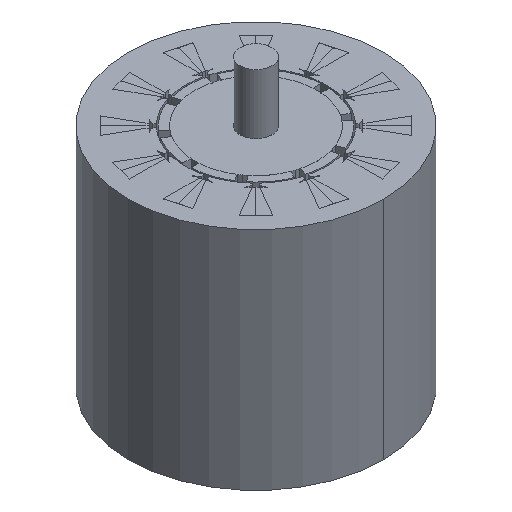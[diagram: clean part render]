
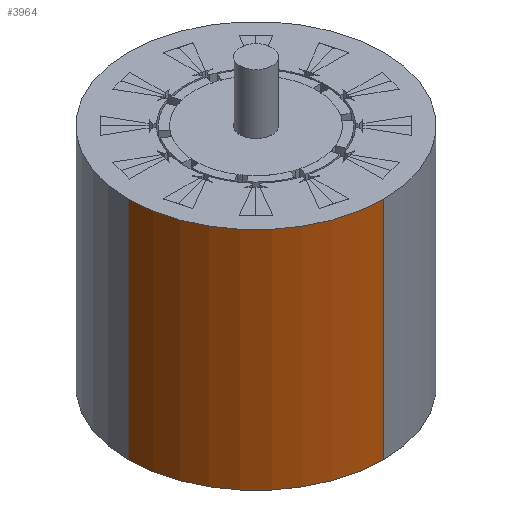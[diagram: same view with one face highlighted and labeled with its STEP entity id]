
A CAD part, isometric view. The second image highlights one B-rep face of the part: STEP entity #3964.
In plain terms, the highlighted cylindrical face has radius 48 mm (diameter 96 mm), a partial arc.
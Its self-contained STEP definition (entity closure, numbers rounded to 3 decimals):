
#3904 = VERTEX_POINT('',#3905);
#3905 = CARTESIAN_POINT('',(0.,-48.,85.));
#3912 = EDGE_CURVE('',#3913,#3904,#3915,.T.);
#3913 = VERTEX_POINT('',#3914);
#3914 = CARTESIAN_POINT('',(0.,-48.,0.));
#3915 = LINE('',#3916,#3917);
#3916 = CARTESIAN_POINT('',(0.,-48.,0.));
#3917 = VECTOR('',#3918,1.);
#3918 = DIRECTION('',(0.,0.,1.));
#3964 = ADVANCED_FACE('',(#3965),#3992,.T.);
#3965 = FACE_BOUND('',#3966,.T.);
#3966 = EDGE_LOOP('',(#3967,#3968,#3977,#3985));
#3967 = ORIENTED_EDGE('',*,*,#3912,.T.);
#3968 = ORIENTED_EDGE('',*,*,#3969,.T.);
#3969 = EDGE_CURVE('',#3904,#3970,#3972,.T.);
#3970 = VERTEX_POINT('',#3971);
#3971 = CARTESIAN_POINT('',(-48.,0.,85.));
#3972 = CIRCLE('',#3973,48.);
#3973 = AXIS2_PLACEMENT_3D('',#3974,#3975,#3976);
#3974 = CARTESIAN_POINT('',(0.,0.,85.));
#3975 = DIRECTION('',(0.,0.,-1.));
#3976 = DIRECTION('',(0.,-1.,-0.));
#3977 = ORIENTED_EDGE('',*,*,#3978,.F.);
#3978 = EDGE_CURVE('',#3979,#3970,#3981,.T.);
#3979 = VERTEX_POINT('',#3980);
#3980 = CARTESIAN_POINT('',(-48.,0.,0.));
#3981 = LINE('',#3982,#3983);
#3982 = CARTESIAN_POINT('',(-48.,0.,0.));
#3983 = VECTOR('',#3984,1.);
#3984 = DIRECTION('',(0.,0.,1.));
#3985 = ORIENTED_EDGE('',*,*,#3986,.F.);
#3986 = EDGE_CURVE('',#3913,#3979,#3987,.T.);
#3987 = CIRCLE('',#3988,48.);
#3988 = AXIS2_PLACEMENT_3D('',#3989,#3990,#3991);
#3989 = CARTESIAN_POINT('',(0.,0.,0.));
#3990 = DIRECTION('',(0.,0.,-1.));
#3991 = DIRECTION('',(0.,-1.,-0.));
#3992 = CYLINDRICAL_SURFACE('',#3993,48.);
#3993 = AXIS2_PLACEMENT_3D('',#3994,#3995,#3996);
#3994 = CARTESIAN_POINT('',(0.,0.,0.));
#3995 = DIRECTION('',(0.,0.,-1.));
#3996 = DIRECTION('',(0.,-1.,-0.));
